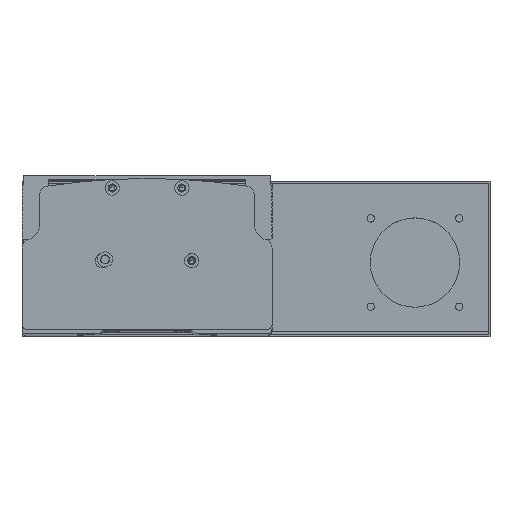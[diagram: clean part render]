
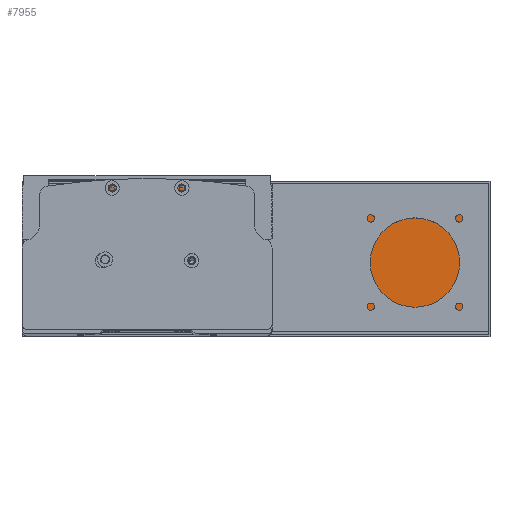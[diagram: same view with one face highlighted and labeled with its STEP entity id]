
A CAD part, top view. The second image highlights one B-rep face of the part: STEP entity #7955.
In plain terms, the highlighted planar face has unit normal (0, 0, 1).
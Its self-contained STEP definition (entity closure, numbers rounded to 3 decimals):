
#590 = EDGE_CURVE ( 'NONE', #22597, #8726, #26140, .T. ) ;
#1575 = ORIENTED_EDGE ( 'NONE', *, *, #11593, .T. ) ;
#1622 = AXIS2_PLACEMENT_3D ( 'NONE', #22971, #6203, #25784 ) ;
#2539 = DIRECTION ( 'NONE',  ( 0., -1., 0. ) ) ;
#2629 = ORIENTED_EDGE ( 'NONE', *, *, #590, .T. ) ;
#6003 = CARTESIAN_POINT ( 'NONE',  ( 130., 42.5, 0. ) ) ;
#6203 = DIRECTION ( 'NONE',  ( 0., 0., 1. ) ) ;
#7955 = ADVANCED_FACE ( 'NONE', ( #25453 ), #14499, .T. ) ;
#8726 = VERTEX_POINT ( 'NONE', #33026 ) ;
#10477 = DIRECTION ( 'NONE',  ( -1., 0., 0. ) ) ;
#11008 = LINE ( 'NONE', #27527, #25046 ) ;
#11593 = EDGE_CURVE ( 'NONE', #24960, #22597, #27829, .T. ) ;
#13166 = EDGE_CURVE ( 'NONE', #24741, #24960, #15043, .T. ) ;
#14499 = PLANE ( 'NONE',  #1622 ) ;
#15043 = LINE ( 'NONE', #35620, #29060 ) ;
#15442 = DIRECTION ( 'NONE',  ( 1., 0., 0. ) ) ;
#18669 = VECTOR ( 'NONE', #2539, 1000. ) ;
#19785 = CARTESIAN_POINT ( 'NONE',  ( -130., -42.5, 0. ) ) ;
#20979 = EDGE_LOOP ( 'NONE', ( #2629, #23312, #34027, #1575 ) ) ;
#22048 = CARTESIAN_POINT ( 'NONE',  ( -130., -42.5, 0. ) ) ;
#22597 = VERTEX_POINT ( 'NONE', #19785 ) ;
#22971 = CARTESIAN_POINT ( 'NONE',  ( 0., 0., 0. ) ) ;
#23312 = ORIENTED_EDGE ( 'NONE', *, *, #32077, .T. ) ;
#23650 = CARTESIAN_POINT ( 'NONE',  ( -130., 42.5, 0. ) ) ;
#24741 = VERTEX_POINT ( 'NONE', #6003 ) ;
#24960 = VERTEX_POINT ( 'NONE', #23650 ) ;
#25046 = VECTOR ( 'NONE', #30326, 1000. ) ;
#25453 = FACE_OUTER_BOUND ( 'NONE', #20979, .T. ) ;
#25784 = DIRECTION ( 'NONE',  ( 1., 0., 0. ) ) ;
#26140 = LINE ( 'NONE', #35000, #26995 ) ;
#26995 = VECTOR ( 'NONE', #15442, 1000. ) ;
#27527 = CARTESIAN_POINT ( 'NONE',  ( 130., -42.5, 0. ) ) ;
#27829 = LINE ( 'NONE', #22048, #18669 ) ;
#29060 = VECTOR ( 'NONE', #10477, 1000. ) ;
#30326 = DIRECTION ( 'NONE',  ( 0., 1., 0. ) ) ;
#32077 = EDGE_CURVE ( 'NONE', #8726, #24741, #11008, .T. ) ;
#33026 = CARTESIAN_POINT ( 'NONE',  ( 130., -42.5, 0. ) ) ;
#34027 = ORIENTED_EDGE ( 'NONE', *, *, #13166, .T. ) ;
#35000 = CARTESIAN_POINT ( 'NONE',  ( -130., -42.5, 0. ) ) ;
#35620 = CARTESIAN_POINT ( 'NONE',  ( -130., 42.5, 0. ) ) ;
